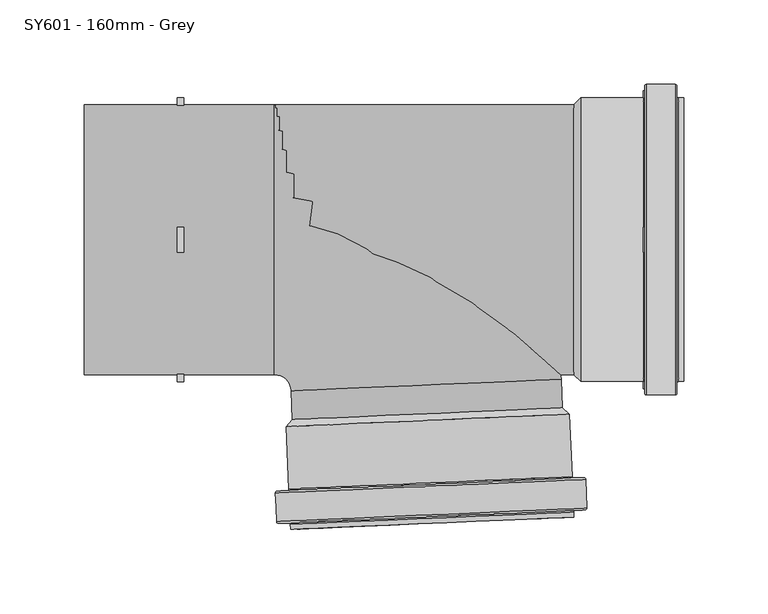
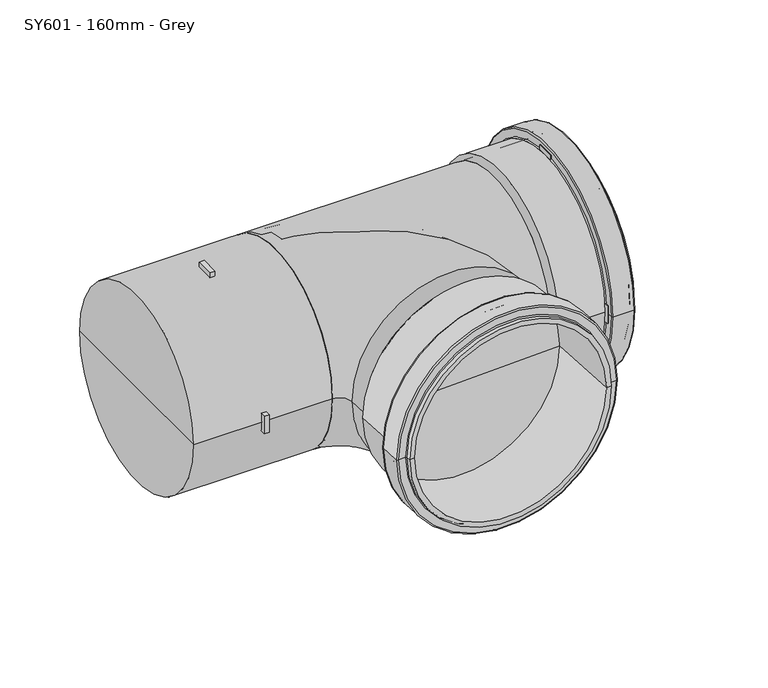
"""IFC4 building model written with IfcOpenShell, lengths in millimetres: pipe fitting geometry, MarleyPlumbingAndDrainage_PipeFitting_EqualBranch87-5 : SY601 - 160mm - Grey."""

from ifc_helpers import new_model, si_unit, point, frame, origin, origin_2d, place, context, project, spatial, polyline, circle_curve, ellipse_curve, trimmed, segment, composite_curve, outline, extrude, source, transform, mapped, element, save
from ifc_brep_helpers import plane_surface, cylinder_surface, revolved_surface, advanced_brep


def sy601_160mm_grey_98f9bbcd(model_context):
    return source(origin(), model_context, "Body", "SolidModel", [
        advanced_brep(
        [(-76.5851777, -171.6602378, 0.0), (91.2549235, -164.3321808, 0.0), (91.1243488, -161.341527, 0.0), (-76.7157525, -168.6695841, 0.0), (-72.5889848, -171.4857603, 0.0), (87.2587306, -164.5066583, 0.0), (-75.2497675, -110.5438188, 0.0), (84.597948, -103.5647168, 0.0), (4.6740903, -107.0542678, 0.0), (-79.2459603, -110.7182963, 0.0), (88.5941409, -103.3902393, 0.0), (84.4234705, -99.5685239, 0.0), (-75.424245, -106.5476259, 0.0), (-77.6309199, -147.7088044, 0.0), (90.2091813, -140.3807473, 0.0), (-78.561748, -148.724625, 0.0), (91.225002, -141.3115754, 0.0), (-84.6004955, -148.9882824, 0.0), (97.2637494, -141.047918, 0.0), (-85.538008, -150.0113978, 0.0), (98.2868648, -141.9854305, 0.0), (-84.7975767, -166.9700623, 0.0), (99.0272961, -158.944095, 0.0), (-83.7091033, -167.9674644, 0.0), (98.029894, -160.0325684, 0.0), (-77.7651944, -167.7079477, 0.0), (92.0859851, -160.2920851, 0.0), (4.4996127, -103.0580749, 0.0)],
        [
            (0, 1, circle_curve(frame((7.3348729, -167.9962093, 0.0), z_axis=(-0.04361938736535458, 0.999048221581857, 0.0), x_axis=(0.999048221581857, 0.04361938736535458, 0.0)), 84.0)),
            (1, 2),
            (2, 3, circle_curve(frame((7.2042981, -165.0055555, 0.0), z_axis=(0.04361938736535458, -0.999048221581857, 0.0), x_axis=(0.999048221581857, 0.04361938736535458, 0.0)), 84.0)),
            (3, 0),
            (1, 0, circle_curve(frame((7.3348729, -167.9962093, 0.0), z_axis=(-0.04361938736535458, 0.999048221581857, 0.0), x_axis=(0.999048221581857, 0.04361938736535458, 0.0)), 84.0)),
            (3, 2, circle_curve(frame((7.2042981, -165.0055555, 0.0), z_axis=(0.04361938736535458, -0.999048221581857, 0.0), x_axis=(0.999048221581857, 0.04361938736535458, 0.0)), 84.0)),
            (4, 5, circle_curve(frame((7.3348729, -167.9962093, 0.0), z_axis=(-0.04361938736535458, 0.999048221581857, 0.0), x_axis=(0.999048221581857, 0.04361938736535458, 0.0)), 80.0)),
            (5, 1),
            (0, 4),
            (5, 4, circle_curve(frame((7.3348729, -167.9962093, 0.0), z_axis=(-0.04361938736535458, 0.999048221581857, 0.0), x_axis=(0.999048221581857, 0.04361938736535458, 0.0)), 80.0)),
            (6, 7, circle_curve(frame((4.6740903, -107.0542678, 0.0), z_axis=(-0.04361938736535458, 0.999048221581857, 0.0), x_axis=(0.999048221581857, 0.04361938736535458, 0.0)), 80.0)),
            (7, 5),
            (4, 6),
            (7, 6, circle_curve(frame((4.6740903, -107.0542678, 0.0), z_axis=(-0.04361938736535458, 0.999048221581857, 0.0), x_axis=(0.999048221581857, 0.04361938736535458, 0.0)), 80.0)),
            (8, 7),
            (6, 8),
            (9, 10, circle_curve(frame((4.6740903, -107.0542678, 0.0), z_axis=(-0.04361938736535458, 0.999048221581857, 0.0), x_axis=(0.999048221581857, 0.04361938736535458, 0.0)), 84.0)),
            (10, 11),
            (11, 12, circle_curve(frame((4.4996127, -103.0580749, 0.0), z_axis=(0.04361938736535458, -0.999048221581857, 0.0), x_axis=(0.999048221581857, 0.04361938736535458, 0.0)), 80.0)),
            (12, 9),
            (10, 9, circle_curve(frame((4.6740903, -107.0542678, 0.0), z_axis=(-0.04361938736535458, 0.999048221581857, 0.0), x_axis=(0.999048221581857, 0.04361938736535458, 0.0)), 84.0)),
            (12, 11, circle_curve(frame((4.4996127, -103.0580749, 0.0), z_axis=(0.04361938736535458, -0.999048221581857, 0.0), x_axis=(0.999048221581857, 0.04361938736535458, 0.0)), 80.0)),
            (13, 14, circle_curve(frame((6.2891307, -144.0447759, 0.0), z_axis=(-0.04361938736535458, 0.999048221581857, 0.0), x_axis=(0.999048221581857, 0.04361938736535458, 0.0)), 84.0)),
            (14, 10),
            (9, 13),
            (14, 13, circle_curve(frame((6.2891307, -144.0447759, 0.0), z_axis=(-0.04361938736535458, 0.999048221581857, 0.0), x_axis=(0.999048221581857, 0.04361938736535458, 0.0)), 84.0)),
            (15, 16, circle_curve(frame((6.331627, -145.0181002, 0.0), z_axis=(-0.04361938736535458, 0.999048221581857, 0.0), x_axis=(0.999048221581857, 0.04361938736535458, 0.0)), 84.9742516)),
            (16, 14, circle_curve(frame((91.1825057, -140.3382511, 0.0), z_axis=(0.0, 0.0, -1.0), x_axis=(-0.043619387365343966, 0.9990482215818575, 0.0)), 0.9742516)),
            (13, 15, circle_curve(frame((-78.6042442, -147.7513007, 0.0), z_axis=(0.0, 0.0, -1.0), x_axis=(-0.0436193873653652, 0.9990482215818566, 0.0)), 0.9742516)),
            (16, 15, circle_curve(frame((6.331627, -145.0181002, 0.0), z_axis=(-0.04361938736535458, 0.999048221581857, 0.0), x_axis=(0.999048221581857, 0.04361938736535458, 0.0)), 84.9742516)),
            (17, 18, circle_curve(frame((6.331627, -145.0181002, 0.0), z_axis=(-0.04361938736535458, 0.999048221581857, 0.0), x_axis=(0.999048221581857, 0.04361938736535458, 0.0)), 91.0187521)),
            (18, 16),
            (15, 17),
            (18, 17, circle_curve(frame((6.331627, -145.0181002, 0.0), z_axis=(-0.04361938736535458, 0.999048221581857, 0.0), x_axis=(0.999048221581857, 0.04361938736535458, 0.0)), 91.0187521)),
            (19, 20, circle_curve(frame((6.3744284, -145.9984141, 0.0), z_axis=(-0.04361938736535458, 0.999048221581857, 0.0), x_axis=(0.999048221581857, 0.04361938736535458, 0.0)), 92.0)),
            (20, 18, circle_curve(frame((97.3065509, -142.0282319, 0.0), z_axis=(0.0, 0.0, 1.0), x_axis=(-0.043619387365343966, 0.9990482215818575, 0.0)), 0.9812479)),
            (17, 19, circle_curve(frame((-84.557694, -149.9685964, 0.0), z_axis=(0.0, 0.0, 1.0), x_axis=(-0.0436193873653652, 0.9990482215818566, 0.0)), 0.9812479)),
            (20, 19, circle_curve(frame((6.3744284, -145.9984141, 0.0), z_axis=(-0.04361938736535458, 0.999048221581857, 0.0), x_axis=(0.999048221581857, 0.04361938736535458, 0.0)), 92.0)),
            (21, 22, circle_curve(frame((7.1148597, -162.9570787, 0.0), z_axis=(-0.04361938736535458, 0.999048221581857, 0.0), x_axis=(0.999048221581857, 0.04361938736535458, 0.0)), 92.0)),
            (22, 20),
            (19, 21),
            (22, 21, circle_curve(frame((7.1148597, -162.9570787, 0.0), z_axis=(-0.04361938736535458, 0.999048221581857, 0.0), x_axis=(0.999048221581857, 0.04361938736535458, 0.0)), 92.0)),
            (23, 24, circle_curve(frame((7.1603954, -164.0000164, 0.0), z_axis=(-0.04361938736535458, 0.999048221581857, 0.0), x_axis=(0.999048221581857, 0.04361938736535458, 0.0)), 90.9560687)),
            (24, 22, circle_curve(frame((97.9843584, -158.9896307, 0.0), z_axis=(0.0, 0.0, 1.0), x_axis=(-0.043619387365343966, 0.9990482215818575, 0.0)), 1.0439313)),
            (21, 23, circle_curve(frame((-83.7546389, -166.9245267, 0.0), z_axis=(0.0, 0.0, 1.0), x_axis=(-0.0436193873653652, 0.9990482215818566, 0.0)), 1.0439313)),
            (24, 23, circle_curve(frame((7.1603954, -164.0000164, 0.0), z_axis=(-0.04361938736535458, 0.999048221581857, 0.0), x_axis=(0.999048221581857, 0.04361938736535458, 0.0)), 90.9560687)),
            (25, 26, circle_curve(frame((7.1603954, -164.0000164, 0.0), z_axis=(-0.04361938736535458, 0.999048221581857, 0.0), x_axis=(0.999048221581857, 0.04361938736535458, 0.0)), 85.0064971)),
            (26, 24),
            (23, 25),
            (26, 25, circle_curve(frame((7.1603954, -164.0000164, 0.0), z_axis=(-0.04361938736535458, 0.999048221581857, 0.0), x_axis=(0.999048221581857, 0.04361938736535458, 0.0)), 85.0064971)),
            (2, 26, circle_curve(frame((92.1298878, -161.2976242, 0.0), z_axis=(0.0, 0.0, -1.0), x_axis=(-0.043619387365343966, 0.9990482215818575, 0.0)), 1.0064971)),
            (25, 3, circle_curve(frame((-77.7212916, -168.7134868, 0.0), z_axis=(0.0, 0.0, -1.0), x_axis=(-0.0436193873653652, 0.9990482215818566, 0.0)), 1.0064971)),
            (11, 27),
            (27, 12),
        ],
        [
            cylinder_surface(frame((9.0796484, -207.9581382, 0.0), z_axis=(0.04361938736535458, -0.999048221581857, 0.0), x_axis=(0.999048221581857, 0.04361938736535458, 0.0)), 84.0),
            plane_surface(frame((7.3348729, -167.9962093, 0.0), z_axis=(0.04361938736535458, -0.999048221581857, 0.0), x_axis=(0.999048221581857, 0.04361938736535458, 0.0))),
            revolved_surface(polyline([(87.25873063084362, -164.50665832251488, 0.0), (84.59794800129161, -103.56471679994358, 0.0)]), (9.0796484, -207.9581382, 0.0), (0.04361938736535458, -0.999048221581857, 0.0)),
            plane_surface(frame((4.6740903, -107.0542678, 0.0), z_axis=(0.04361938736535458, -0.999048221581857, 0.0), x_axis=(0.999048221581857, 0.04361938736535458, 0.0))),
            revolved_surface(polyline([(84.4234705, -99.5685239, 0.0), (88.5941409, -103.3902393, 0.0)]), (9.0796484, -207.9581382, 0.0), (0.04361938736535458, -0.999048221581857, 0.0)),
            revolved_surface(trimmed(ellipse_curve(frame((91.1825057, -140.3382511, 0.0), z_axis=(0.0, 0.0, 1.0), x_axis=(-0.043619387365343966, 0.9990482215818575, 0.0)), 0.9742516, 0.9742516), [point((90.2091813, -140.3807473, 0.0))], [point((91.225002, -141.3115754, 0.0))], True, "CARTESIAN"), (9.0796484, -207.9581382, 0.0), (0.04361938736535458, -0.999048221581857, 0.0)),
            plane_surface(frame((6.331627, -145.0181002, 0.0), z_axis=(-0.04361938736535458, 0.999048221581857, 0.0), x_axis=(0.999048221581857, 0.04361938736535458, 0.0))),
            revolved_surface(trimmed(ellipse_curve(frame((97.3065509, -142.0282319, 0.0), z_axis=(0.0, 0.0, -1.0), x_axis=(-0.043619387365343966, 0.9990482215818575, 0.0)), 0.9812479, 0.9812479), [point((97.2637494, -141.047918, 0.0))], [point((98.2868648, -141.9854305, 0.0))], True, "CARTESIAN"), (9.0796484, -207.9581382, 0.0), (0.04361938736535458, -0.999048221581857, 0.0)),
            cylinder_surface(frame((9.0796484, -207.9581382, 0.0), z_axis=(0.04361938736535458, -0.999048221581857, 0.0), x_axis=(0.999048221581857, 0.04361938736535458, 0.0)), 92.0),
            revolved_surface(trimmed(ellipse_curve(frame((97.9843584, -158.9896307, 0.0), z_axis=(0.0, 0.0, -1.0), x_axis=(-0.043619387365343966, 0.9990482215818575, 0.0)), 1.0439313, 1.0439313), [point((99.0272961, -158.944095, 0.0))], [point((98.029894, -160.0325684, 0.0))], True, "CARTESIAN"), (9.0796484, -207.9581382, 0.0), (0.04361938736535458, -0.999048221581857, 0.0)),
            plane_surface(frame((7.1603954, -164.0000164, 0.0), z_axis=(0.04361938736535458, -0.999048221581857, 0.0), x_axis=(0.999048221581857, 0.04361938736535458, 0.0))),
            revolved_surface(trimmed(ellipse_curve(frame((92.1298878, -161.2976242, 0.0), z_axis=(0.0, 0.0, 1.0), x_axis=(-0.043619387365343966, 0.9990482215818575, 0.0)), 1.0064971, 1.0064971), [point((92.0859851, -160.2920851, 0.0))], [point((91.1243488, -161.341527, 0.0))], True, "CARTESIAN"), (9.0796484, -207.9581382, 0.0), (0.04361938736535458, -0.999048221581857, 0.0)),
            plane_surface(frame((4.4996127, -103.0580749, 0.0), z_axis=(-0.04361938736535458, 0.999048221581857, 0.0), x_axis=(0.999048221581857, 0.04361938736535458, 0.0))),
        ],
        [
            (0, [[1, 2, 3, 4]]),
            (0, [[5, -4, 6, -2]]),
            (1, [[7, 8, -1, 9]]),
            (1, [[10, -9, -5, -8]]),
            (2, [[11, 12, -7, 13]]),
            (2, [[14, -13, -10, -12]]),
            (3, [[15, -11, 16]]),
            (3, [[-16, -14, -15]]),
            (4, [[17, 18, 19, 20]]),
            (4, [[21, -20, 22, -18]]),
            (0, [[23, 24, -17, 25]]),
            (0, [[26, -25, -21, -24]]),
            (5, [[27, 28, -23, 29]]),
            (5, [[30, -29, -26, -28]]),
            (6, [[31, 32, -27, 33]]),
            (6, [[34, -33, -30, -32]]),
            (7, [[35, 36, -31, 37]]),
            (7, [[38, -37, -34, -36]]),
            (8, [[39, 40, -35, 41]]),
            (8, [[42, -41, -38, -40]]),
            (9, [[43, 44, -39, 45]]),
            (9, [[46, -45, -42, -44]]),
            (10, [[47, 48, -43, 49]]),
            (10, [[50, -49, -46, -48]]),
            (11, [[-3, 51, -47, 52]]),
            (11, [[-6, -52, -50, -51]]),
            (12, [[-19, 53, 54]]),
            (12, [[-22, -54, -53]]),
        ],
    ),
        advanced_brep(
        [(156.3, 84.0, 0.0), (156.3, -84.0, 0.0), (153.3064971, -84.0, 0.0), (153.3064971, 84.0, 0.0), (156.3, 80.0, 0.0), (156.3, -80.0, 0.0), (95.3, 80.0, 0.0), (95.3, -80.0, 0.0), (95.3, 0.0, 0.0), (95.3, 84.0, 0.0), (95.3, -84.0, 0.0), (91.3, -80.0, 0.0), (91.3, 80.0, 0.0), (132.3257484, 84.0, 0.0), (132.3257484, -84.0, 0.0), (133.3, 84.9742516, 0.0), (133.3, -84.9742516, 0.0), (133.3, 91.0187521, 0.0), (133.3, -91.0187521, 0.0), (134.2812479, 92.0, 0.0), (134.2812479, -92.0, 0.0), (151.2560687, 92.0, 0.0), (151.2560687, -92.0, 0.0), (152.3, 90.9560687, 0.0), (152.3, -90.9560687, 0.0), (152.3, 85.0064971, 0.0), (152.3, -85.0064971, 0.0), (91.3, 0.0, 0.0)],
        [
            (0, 1, circle_curve(frame((156.3, 0.0, 0.0), z_axis=(-1.0, 0.0, 0.0), x_axis=(0.0, -1.0, 0.0)), 84.0)),
            (1, 2),
            (2, 3, circle_curve(frame((153.3064971, 0.0, 0.0), z_axis=(1.0, 0.0, 0.0), x_axis=(0.0, -1.0, 0.0)), 84.0)),
            (3, 0),
            (1, 0, circle_curve(frame((156.3, 0.0, 0.0), z_axis=(-1.0, 0.0, 0.0), x_axis=(0.0, -1.0, 0.0)), 84.0)),
            (3, 2, circle_curve(frame((153.3064971, 0.0, 0.0), z_axis=(1.0, 0.0, 0.0), x_axis=(0.0, -1.0, 0.0)), 84.0)),
            (4, 5, circle_curve(frame((156.3, 0.0, 0.0), z_axis=(-1.0, 0.0, 0.0), x_axis=(0.0, -1.0, 0.0)), 80.0)),
            (5, 1),
            (0, 4),
            (5, 4, circle_curve(frame((156.3, 0.0, 0.0), z_axis=(-1.0, 0.0, 0.0), x_axis=(0.0, -1.0, 0.0)), 80.0)),
            (6, 7, circle_curve(frame((95.3, 0.0, 0.0), z_axis=(-1.0, 0.0, 0.0), x_axis=(0.0, -1.0, 0.0)), 80.0)),
            (7, 5),
            (4, 6),
            (7, 6, circle_curve(frame((95.3, 0.0, 0.0), z_axis=(-1.0, 0.0, 0.0), x_axis=(0.0, -1.0, 0.0)), 80.0)),
            (8, 7),
            (6, 8),
            (9, 10, circle_curve(frame((95.3, 0.0, 0.0), z_axis=(-1.0, 0.0, 0.0), x_axis=(0.0, -1.0, 0.0)), 84.0)),
            (10, 11),
            (11, 12, circle_curve(frame((91.3, 0.0, 0.0), z_axis=(1.0, 0.0, 0.0), x_axis=(0.0, -1.0, 0.0)), 80.0)),
            (12, 9),
            (10, 9, circle_curve(frame((95.3, 0.0, 0.0), z_axis=(-1.0, 0.0, 0.0), x_axis=(0.0, -1.0, 0.0)), 84.0)),
            (12, 11, circle_curve(frame((91.3, 0.0, 0.0), z_axis=(1.0, 0.0, 0.0), x_axis=(0.0, -1.0, 0.0)), 80.0)),
            (13, 14, circle_curve(frame((132.3257484, 0.0, 0.0), z_axis=(-1.0, 0.0, 0.0), x_axis=(0.0, -1.0, 0.0)), 84.0)),
            (14, 10),
            (9, 13),
            (14, 13, circle_curve(frame((132.3257484, 0.0, 0.0), z_axis=(-1.0, 0.0, 0.0), x_axis=(0.0, -1.0, 0.0)), 84.0)),
            (15, 16, circle_curve(frame((133.3, 0.0, 0.0), z_axis=(-1.0, 0.0, 0.0), x_axis=(0.0, -1.0, 0.0)), 84.9742516)),
            (16, 14, circle_curve(frame((132.3257484, -84.9742516, 0.0), z_axis=(0.0, 0.0, 1.0), x_axis=(-1.0, 0.0, 0.0)), 0.9742516)),
            (13, 15, circle_curve(frame((132.3257484, 84.9742516, 0.0), z_axis=(0.0, 0.0, 1.0), x_axis=(-1.0, 0.0, 0.0)), 0.9742516)),
            (16, 15, circle_curve(frame((133.3, 0.0, 0.0), z_axis=(-1.0, 0.0, 0.0), x_axis=(0.0, -1.0, 0.0)), 84.9742516)),
            (17, 18, circle_curve(frame((133.3, 0.0, 0.0), z_axis=(-1.0, 0.0, 0.0), x_axis=(0.0, -1.0, 0.0)), 91.0187521)),
            (18, 16),
            (15, 17),
            (18, 17, circle_curve(frame((133.3, 0.0, 0.0), z_axis=(-1.0, 0.0, 0.0), x_axis=(0.0, -1.0, 0.0)), 91.0187521)),
            (19, 20, circle_curve(frame((134.2812479, 0.0, 0.0), z_axis=(-1.0, 0.0, 0.0), x_axis=(0.0, -1.0, 0.0)), 92.0)),
            (20, 18, circle_curve(frame((134.2812479, -91.0187521, 0.0), z_axis=(0.0, 0.0, -1.0), x_axis=(-1.0, 0.0, 0.0)), 0.9812479)),
            (17, 19, circle_curve(frame((134.2812479, 91.0187521, 0.0), z_axis=(0.0, 0.0, -1.0), x_axis=(-1.0, 0.0, 0.0)), 0.9812479)),
            (20, 19, circle_curve(frame((134.2812479, 0.0, 0.0), z_axis=(-1.0, 0.0, 0.0), x_axis=(0.0, -1.0, 0.0)), 92.0)),
            (21, 22, circle_curve(frame((151.2560687, 0.0, 0.0), z_axis=(-1.0, 0.0, 0.0), x_axis=(0.0, -1.0, 0.0)), 92.0)),
            (22, 20),
            (19, 21),
            (22, 21, circle_curve(frame((151.2560687, 0.0, 0.0), z_axis=(-1.0, 0.0, 0.0), x_axis=(0.0, -1.0, 0.0)), 92.0)),
            (23, 24, circle_curve(frame((152.3, 0.0, 0.0), z_axis=(-1.0, 0.0, 0.0), x_axis=(0.0, -1.0, 0.0)), 90.9560687)),
            (24, 22, circle_curve(frame((151.2560687, -90.9560687, 0.0), z_axis=(0.0, 0.0, -1.0), x_axis=(-1.0, 0.0, 0.0)), 1.0439313)),
            (21, 23, circle_curve(frame((151.2560687, 90.9560687, 0.0), z_axis=(0.0, 0.0, -1.0), x_axis=(-1.0, 0.0, 0.0)), 1.0439313)),
            (24, 23, circle_curve(frame((152.3, 0.0, 0.0), z_axis=(-1.0, 0.0, 0.0), x_axis=(0.0, -1.0, 0.0)), 90.9560687)),
            (25, 26, circle_curve(frame((152.3, 0.0, 0.0), z_axis=(-1.0, 0.0, 0.0), x_axis=(0.0, -1.0, 0.0)), 85.0064971)),
            (26, 24),
            (23, 25),
            (26, 25, circle_curve(frame((152.3, 0.0, 0.0), z_axis=(-1.0, 0.0, 0.0), x_axis=(0.0, -1.0, 0.0)), 85.0064971)),
            (2, 26, circle_curve(frame((153.3064971, -85.0064971, 0.0), z_axis=(0.0, 0.0, 1.0), x_axis=(-1.0, 0.0, 0.0)), 1.0064971)),
            (25, 3, circle_curve(frame((153.3064971, 85.0064971, 0.0), z_axis=(0.0, 0.0, 1.0), x_axis=(-1.0, 0.0, 0.0)), 1.0064971)),
            (11, 27),
            (27, 12),
        ],
        [
            cylinder_surface(frame((196.3, 0.0, 0.0), z_axis=(1.0, 0.0, 0.0), x_axis=(0.0, -1.0, 0.0)), 84.0),
            plane_surface(frame((156.3, 0.0, 0.0), z_axis=(1.0, 0.0, 0.0), x_axis=(0.0, -1.0, 0.0))),
            revolved_surface(polyline([(156.3, -80.0, 0.0), (95.3, -80.0, 0.0)]), (196.3, 0.0, 0.0), (1.0, 0.0, 0.0)),
            plane_surface(frame((95.3, 0.0, 0.0), z_axis=(1.0, 0.0, 0.0), x_axis=(0.0, -1.0, 0.0))),
            revolved_surface(polyline([(91.3, -80.0, 0.0), (95.3, -84.0, 0.0)]), (196.3, 0.0, 0.0), (1.0, 0.0, 0.0)),
            revolved_surface(trimmed(ellipse_curve(frame((132.3257484, -84.9742516, 0.0), z_axis=(0.0, 0.0, -1.0), x_axis=(-1.0, 0.0, 0.0)), 0.9742516, 0.9742516), [point((132.3257484, -84.0, 0.0))], [point((133.3, -84.9742516, 0.0))], True, "CARTESIAN"), (196.3, 0.0, 0.0), (1.0, 0.0, 0.0)),
            plane_surface(frame((133.3, 0.0, 0.0), z_axis=(-1.0, 0.0, 0.0), x_axis=(0.0, -1.0, 0.0))),
            revolved_surface(trimmed(ellipse_curve(frame((134.2812479, -91.0187521, 0.0), z_axis=(0.0, 0.0, 1.0), x_axis=(-1.0, 0.0, 0.0)), 0.9812479, 0.9812479), [point((133.3, -91.0187521, 0.0))], [point((134.2812479, -92.0, 0.0))], True, "CARTESIAN"), (196.3, 0.0, 0.0), (1.0, 0.0, 0.0)),
            cylinder_surface(frame((196.3, 0.0, 0.0), z_axis=(1.0, 0.0, 0.0), x_axis=(0.0, -1.0, 0.0)), 92.0),
            revolved_surface(trimmed(ellipse_curve(frame((151.2560687, -90.9560687, 0.0), z_axis=(0.0, 0.0, 1.0), x_axis=(-1.0, 0.0, 0.0)), 1.0439313, 1.0439313), [point((151.2560687, -92.0, 0.0))], [point((152.3, -90.9560687, 0.0))], True, "CARTESIAN"), (196.3, 0.0, 0.0), (1.0, 0.0, 0.0)),
            plane_surface(frame((152.3, 0.0, 0.0), z_axis=(1.0, 0.0, 0.0), x_axis=(0.0, -1.0, 0.0))),
            revolved_surface(trimmed(ellipse_curve(frame((153.3064971, -85.0064971, 0.0), z_axis=(0.0, 0.0, -1.0), x_axis=(-1.0, 0.0, 0.0)), 1.0064971, 1.0064971), [point((152.3, -85.0064971, 0.0))], [point((153.3064971, -84.0, 0.0))], True, "CARTESIAN"), (196.3, 0.0, 0.0), (1.0, 0.0, 0.0)),
            plane_surface(frame((91.3, 0.0, 0.0), z_axis=(-1.0, 0.0, 0.0), x_axis=(0.0, -1.0, 0.0))),
        ],
        [
            (0, [[1, 2, 3, 4]]),
            (0, [[5, -4, 6, -2]]),
            (1, [[7, 8, -1, 9]]),
            (1, [[10, -9, -5, -8]]),
            (2, [[11, 12, -7, 13]]),
            (2, [[14, -13, -10, -12]]),
            (3, [[15, -11, 16]]),
            (3, [[-16, -14, -15]]),
            (4, [[17, 18, 19, 20]]),
            (4, [[21, -20, 22, -18]]),
            (0, [[23, 24, -17, 25]]),
            (0, [[26, -25, -21, -24]]),
            (5, [[27, 28, -23, 29]]),
            (5, [[30, -29, -26, -28]]),
            (6, [[31, 32, -27, 33]]),
            (6, [[34, -33, -30, -32]]),
            (7, [[35, 36, -31, 37]]),
            (7, [[38, -37, -34, -36]]),
            (8, [[39, 40, -35, 41]]),
            (8, [[42, -41, -38, -40]]),
            (9, [[43, 44, -39, 45]]),
            (9, [[46, -45, -42, -44]]),
            (10, [[47, 48, -43, 49]]),
            (10, [[50, -49, -46, -48]]),
            (11, [[-3, 51, -47, 52]]),
            (11, [[-6, -52, -50, -51]]),
            (12, [[-19, 53, 54]]),
            (12, [[-22, -54, -53]]),
        ],
    ),
        advanced_brep(
        [(-86.1562568, -80.0, 0.0), (-86.1562568, 80.0, 0.0), (83.6819409, -82.5847041, 0.0), (-76.1657746, -89.5638061, 0.0), (-75.424245, -106.5476259, 0.0), (84.4234705, -99.5685239, 0.0)],
        [
            (0, 1, circle_curve(frame((-86.1562568, 0.0, 0.0), z_axis=(-1.0, 0.0, 0.0), x_axis=(0.0, 1.0, 0.0)), 80.0)),
            (1, 0, circle_curve(frame((-86.1562568, 0.0, 0.0), z_axis=(-1.0, 0.0, 0.0), x_axis=(0.0, 1.0, 0.0)), 80.0)),
            (2, 1, circle_curve(frame((-86.1562568, -90.0, 0.0), z_axis=(0.0, 0.0, 1.0), x_axis=(0.0, 1.0, 0.0)), 170.0)),
            (0, 3, circle_curve(frame((-86.1562568, -90.0, 0.0), z_axis=(0.0, 0.0, -1.0), x_axis=(0.0, 1.0, 0.0)), 10.0)),
            (3, 2, circle_curve(frame((3.7580831, -86.0742551, 0.0), z_axis=(-0.04361938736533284, 0.9990482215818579, 0.0), x_axis=(0.9990482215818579, 0.04361938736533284, 0.0)), 80.0)),
            (2, 3, circle_curve(frame((3.7580831, -86.0742551, 0.0), z_axis=(-0.0436193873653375, 0.9990482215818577, 0.0), x_axis=(0.9990482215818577, 0.0436193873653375, 0.0)), 80.0)),
            (4, 5, circle_curve(frame((4.4996127, -103.0580749, 0.0), z_axis=(0.04361938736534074, -0.9990482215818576, 0.0), x_axis=(0.9990482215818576, 0.04361938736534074, 0.0)), 80.0)),
            (5, 4, circle_curve(frame((4.4996127, -103.0580749, 0.0), z_axis=(0.04361938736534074, -0.9990482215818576, 0.0), x_axis=(0.9990482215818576, 0.04361938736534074, 0.0)), 80.0)),
            (3, 4),
            (5, 2),
        ],
        [
            plane_surface(frame((-86.1562568, 0.0, 0.0), z_axis=(-1.0, 0.0, 0.0), x_axis=(0.0, 0.0, 1.0))),
            revolved_surface(trimmed(ellipse_curve(frame((-86.1562568, 0.0, 0.0), z_axis=(-1.0, 0.0, 0.0), x_axis=(0.0, 1.0, 0.0)), 80.0, 80.0), [point((-86.1562568, -80.0, 0.0))], [point((-86.1562568, 80.0, 0.0))], True, "CARTESIAN"), (-86.1562568, -90.0, 0.0), (0.0, 0.0, -1.0)),
            revolved_surface(trimmed(ellipse_curve(frame((-86.1562568, 0.0, 0.0), z_axis=(-1.0, 0.0, 0.0), x_axis=(0.0, 1.0, 0.0)), 80.0, 80.0), [point((-86.1562568, 80.0, 0.0))], [point((-86.1562568, -80.0, 0.0))], True, "CARTESIAN"), (-86.1562568, -90.0, 0.0), (0.0, 0.0, -1.0)),
            plane_surface(frame((4.4996127, -103.0580749, 0.0), z_axis=(0.04361938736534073, -0.9990482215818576, 0.0), x_axis=(0.0, 0.0, 1.0))),
            cylinder_surface(frame((3.7580831, -86.0742551, 0.0), z_axis=(-0.04361938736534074, 0.9990482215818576, 0.0), x_axis=(0.9990482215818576, 0.04361938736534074, 0.0)), 80.0),
        ],
        [
            (0, [[1, 2]]),
            (1, [[3, -1, 4, 5]]),
            (2, [[-4, -2, -3, 6]]),
            (3, [[7, 8]]),
            (4, [[-5, 9, -8, 10]]),
            (4, [[-6, -10, -7, -9]]),
        ],
    ),
        advanced_brep(
        [(-198.7, -80.0, 0.0), (-198.7, 80.0, 0.0), (91.3, 80.0, 0.0), (91.3, -80.0, 0.0), (-198.7, 0.0, 0.0), (91.3, 0.0, 0.0)],
        [
            (0, 1, circle_curve(frame((-198.7, 0.0, 0.0), z_axis=(1.0, 0.0, 0.0), x_axis=(0.0, 1.0, 0.0)), 80.0)),
            (1, 2),
            (2, 3, circle_curve(frame((91.3, 0.0, 0.0), z_axis=(-1.0, 0.0, 0.0), x_axis=(0.0, 1.0, 0.0)), 80.0)),
            (3, 0),
            (1, 0, circle_curve(frame((-198.7, 0.0, 0.0), z_axis=(1.0, 0.0, 0.0), x_axis=(0.0, 1.0, 0.0)), 80.0)),
            (3, 2, circle_curve(frame((91.3, 0.0, 0.0), z_axis=(-1.0, 0.0, 0.0), x_axis=(0.0, 1.0, 0.0)), 80.0)),
            (4, 1),
            (0, 4),
            (2, 5),
            (5, 3),
        ],
        [
            cylinder_surface(frame((141.3, 0.0, 0.0), z_axis=(-1.0, 0.0, 0.0), x_axis=(0.0, 1.0, 0.0)), 80.0),
            plane_surface(frame((-198.7, 0.0, 0.0), z_axis=(-1.0, 0.0, 0.0), x_axis=(0.0, 1.0, 0.0))),
            plane_surface(frame((91.3, 0.0, 0.0), z_axis=(1.0, 0.0, 0.0), x_axis=(0.0, 1.0, 0.0))),
        ],
        [
            (0, [[1, 2, 3, 4]]),
            (0, [[5, -4, 6, -2]]),
            (1, [[7, -1, 8]]),
            (1, [[-8, -5, -7]]),
            (2, [[-3, 9, 10]]),
            (2, [[-6, -10, -9]]),
        ],
    ),
        extrude(outline(composite_curve([segment(trimmed(circle_curve(origin_2d(), 88.5), [point((-7.5, 88.1816307))], [point((7.5, 88.1816307))], False, "CARTESIAN"), True, "CONTINUOUS"), segment(polyline([(7.5, 88.1816307), (7.5, 84.1665017)]), True, "CONTINUOUS"), segment(trimmed(circle_curve(origin_2d(), 84.5), [point((7.5, 84.1665017))], [point((-7.5, 84.1665017))], True, "CARTESIAN"), True, "CONTINUOUS"), segment(polyline([(-7.5, 84.1665017), (-7.5, 88.1816307)]), True, "CONTINUOUS")], self_intersect=False)), frame((132.3, 0.0, 0.0), z_axis=(1.0, 0.0, 0.0), x_axis=(0.0, 1.0, 0.0)), (0.0, 0.0, 1.0), 4.0),
        extrude(outline(composite_curve([segment(polyline([(84.1665017, 7.5), (88.1816307, 7.5)]), True, "CONTINUOUS"), segment(trimmed(circle_curve(origin_2d(), 88.5), [point((88.1816307, 7.5))], [point((88.1816307, -7.5))], False, "CARTESIAN"), True, "CONTINUOUS"), segment(polyline([(88.1816307, -7.5), (84.1665017, -7.5)]), True, "CONTINUOUS"), segment(trimmed(circle_curve(origin_2d(), 84.5), [point((84.1665017, -7.5))], [point((84.1665017, 7.5))], True, "CARTESIAN"), True, "CONTINUOUS")], self_intersect=False)), frame((132.3, 0.0, 0.0), z_axis=(1.0, 0.0, 0.0), x_axis=(0.0, 1.0, 0.0)), (0.0, 0.0, 1.0), 4.0),
        extrude(outline(composite_curve([segment(polyline([(-84.1665017, -7.5), (-88.1816307, -7.5)]), True, "CONTINUOUS"), segment(trimmed(circle_curve(origin_2d(), 88.5), [point((-88.1816307, -7.5))], [point((-88.1816307, 7.5))], False, "CARTESIAN"), True, "CONTINUOUS"), segment(polyline([(-88.1816307, 7.5), (-84.1665017, 7.5)]), True, "CONTINUOUS"), segment(trimmed(circle_curve(origin_2d(), 84.5), [point((-84.1665017, 7.5))], [point((-84.1665017, -7.5))], True, "CARTESIAN"), True, "CONTINUOUS")], self_intersect=False)), frame((132.3, 0.0, 0.0), z_axis=(1.0, 0.0, 0.0), x_axis=(0.0, 1.0, 0.0)), (0.0, 0.0, 1.0), 4.0),
        extrude(outline(composite_curve([segment(polyline([(7.5, -84.1665017), (7.5, -88.1816307)]), True, "CONTINUOUS"), segment(trimmed(circle_curve(origin_2d(), 88.5), [point((7.5, -88.1816307))], [point((-7.5, -88.1816307))], False, "CARTESIAN"), True, "CONTINUOUS"), segment(polyline([(-7.5, -88.1816307), (-7.5, -84.1665017)]), True, "CONTINUOUS"), segment(trimmed(circle_curve(origin_2d(), 84.5), [point((-7.5, -84.1665017))], [point((7.5, -84.1665017))], True, "CARTESIAN"), True, "CONTINUOUS")], self_intersect=False)), frame((132.3, 0.0, 0.0), z_axis=(1.0, 0.0, 0.0), x_axis=(0.0, 1.0, 0.0)), (0.0, 0.0, 1.0), 4.0),
        extrude(outline(composite_curve([segment(polyline([(-79.6476616, -7.5), (-84.1665017, -7.5)]), True, "CONTINUOUS"), segment(trimmed(circle_curve(origin_2d(), 84.5), [point((-84.1665017, -7.5))], [point((-84.1665017, 7.5))], False, "CARTESIAN"), True, "CONTINUOUS"), segment(polyline([(-84.1665017, 7.5), (-79.6476616, 7.5)]), True, "CONTINUOUS"), segment(trimmed(circle_curve(origin_2d(), 80.0), [point((-79.6476616, 7.5))], [point((-79.6476616, -7.5))], True, "CARTESIAN"), True, "CONTINUOUS")], self_intersect=False)), frame((-143.7, 0.0, 0.0), z_axis=(1.0, 0.0, 0.0), x_axis=(0.0, 1.0, 0.0)), (0.0, 0.0, 1.0), 4.0),
        extrude(outline(composite_curve([segment(trimmed(circle_curve(origin_2d(), 80.0), [point((-7.5, -79.6476616))], [point((7.5, -79.6476616))], True, "CARTESIAN"), True, "CONTINUOUS"), segment(polyline([(7.5, -79.6476616), (7.5, -84.1665017)]), True, "CONTINUOUS"), segment(trimmed(circle_curve(origin_2d(), 84.5), [point((7.5, -84.1665017))], [point((-7.5, -84.1665017))], False, "CARTESIAN"), True, "CONTINUOUS"), segment(polyline([(-7.5, -84.1665017), (-7.5, -79.6476616)]), True, "CONTINUOUS")], self_intersect=False)), frame((-143.7, 0.0, 0.0), z_axis=(1.0, 0.0, 0.0), x_axis=(0.0, 1.0, 0.0)), (0.0, 0.0, 1.0), 4.0),
        extrude(outline(composite_curve([segment(trimmed(circle_curve(origin_2d(), 80.0), [point((7.5, 79.6476616))], [point((-7.5, 79.6476616))], True, "CARTESIAN"), True, "CONTINUOUS"), segment(polyline([(-7.5, 79.6476616), (-7.5, 84.1665017)]), True, "CONTINUOUS"), segment(trimmed(circle_curve(origin_2d(), 84.5), [point((-7.5, 84.1665017))], [point((7.5, 84.1665017))], False, "CARTESIAN"), True, "CONTINUOUS"), segment(polyline([(7.5, 84.1665017), (7.5, 79.6476616)]), True, "CONTINUOUS")], self_intersect=False)), frame((-143.7, 0.0, 0.0), z_axis=(1.0, 0.0, 0.0), x_axis=(0.0, 1.0, 0.0)), (0.0, 0.0, 1.0), 4.0),
        extrude(outline(composite_curve([segment(polyline([(79.6476616, 7.5), (84.1665017, 7.5)]), True, "CONTINUOUS"), segment(trimmed(circle_curve(origin_2d(), 84.5), [point((84.1665017, 7.5))], [point((84.1665017, -7.5))], False, "CARTESIAN"), True, "CONTINUOUS"), segment(polyline([(84.1665017, -7.5), (79.6476616, -7.5)]), True, "CONTINUOUS"), segment(trimmed(circle_curve(origin_2d(), 80.0), [point((79.6476616, -7.5))], [point((79.6476616, 7.5))], True, "CARTESIAN"), True, "CONTINUOUS")], self_intersect=False)), frame((-143.7, 0.0, 0.0), z_axis=(1.0, 0.0, 0.0), x_axis=(0.0, 1.0, 0.0)), (0.0, 0.0, 1.0), 4.0),
    ])


if __name__ == "__main__":
    model = new_model("IFC4")
    model_context = context("Model", 3, world=origin())
    ifc_project = project(units=[si_unit("LENGTHUNIT", "METRE", prefix="MILLI")], contexts=[model_context])
    site = spatial("IfcSite", under=ifc_project)
    building = spatial("IfcBuilding", under=site)
    placement = place(None, origin())
    sy601_160mm_grey_shape = sy601_160mm_grey_98f9bbcd(model_context)
    element("IfcPipeFitting", 1, ObjectType="MarleyPlumbingAndDrainage_PipeFitting_EqualBranch87-5 : SY601 - 160mm - Grey", at=placement, inside=building, context=model_context, shape_type="MappedRepresentation", body=[
        mapped(sy601_160mm_grey_shape, transform((0.0, 0.0, 0.0), x_axis=(1.0, 0.0, 0.0), y_axis=(0.0, 1.0, 0.0), z_axis=(0.0, 0.0, 1.0))),
    ])
    save(model, "model.ifc")
